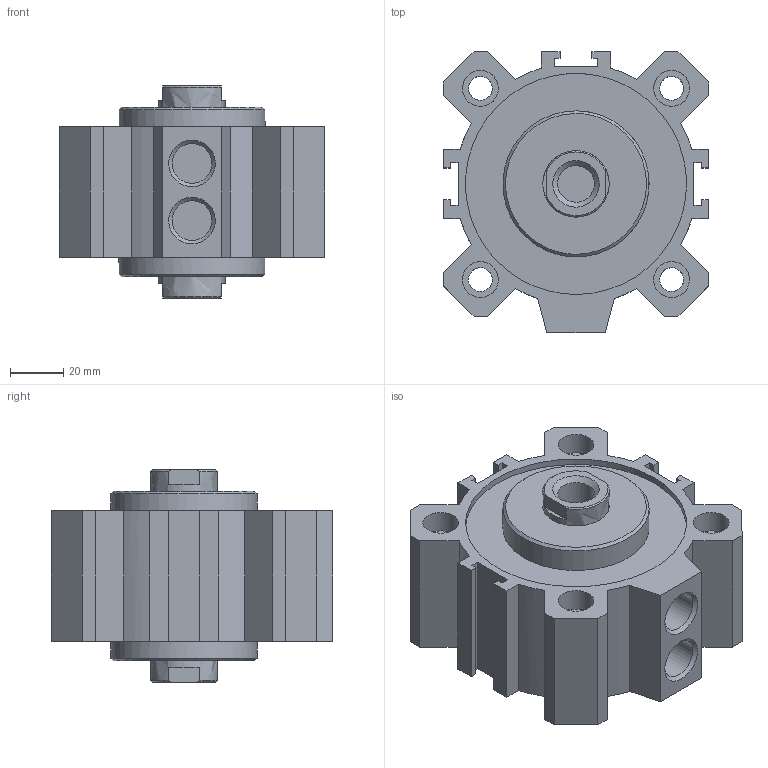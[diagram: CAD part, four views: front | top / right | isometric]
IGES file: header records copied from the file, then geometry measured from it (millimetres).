
Global section: file name: 1514_80_0000; native system: Autodesk Inventor 2014; preprocessor: unknown; author: A. Manieri; date: 20160824.142319; units: millimetre
Bounding box: 100 x 106 x 80 mm (x, y, z)
Volume: 417278.4 mm3; surface area: 91553.8 mm2
Topology: 2 solids, 2 shells, 132 faces, 346 edges, 238 vertices
Faces by surface type: bspline 132
